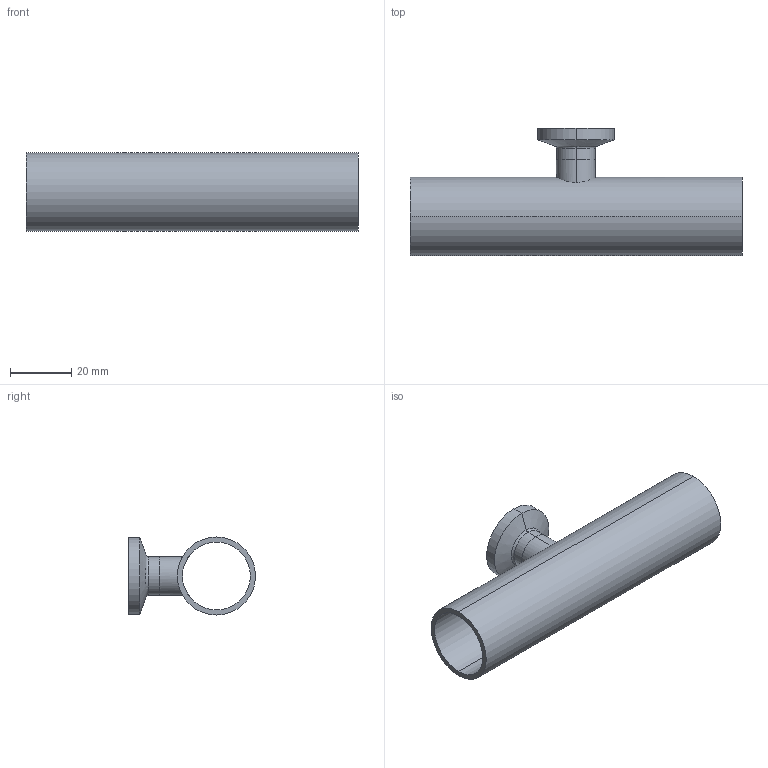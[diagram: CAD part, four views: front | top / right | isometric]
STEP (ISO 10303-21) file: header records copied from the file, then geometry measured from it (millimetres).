
FILE_DESCRIPTION (( 'STEP AP214' ), '1' );
FILE_NAME ('TE7RWWCS6L1.0x.5-...STEP', '2016-05-23T10:48:48', ( 'eran' ), ( '' ), 'SwSTEP 2.0', 'SolidWorks 2016', '' );
FILE_SCHEMA (( 'AUTOMOTIVE_DESIGN' ));
Length unit declared in the file: millimetre
Products named in the file (1): TE7RWWCS6L1.0x.5-..
Bounding box: 108 x 41.3 x 25.4 mm (x, y, z)
Volume: 15443.2 mm3; surface area: 18449 mm2
Topology: 2 solids, 2 shells, 34 faces, 72 edges, 44 vertices
Faces by surface type: cylinder 16, bspline 8, plane 6, cone 4
Entity records: 1215 total; most frequent: CARTESIAN_POINT 439, DIRECTION 162, ORIENTED_EDGE 144, EDGE_CURVE 72, AXIS2_PLACEMENT_3D 71, CIRCLE 44, VERTEX_POINT 44, EDGE_LOOP 42
